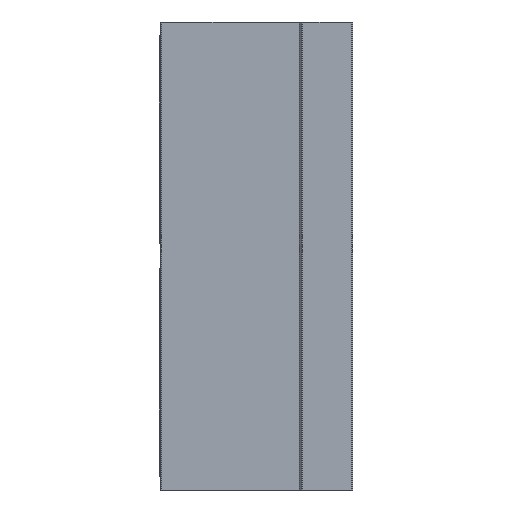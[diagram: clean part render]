
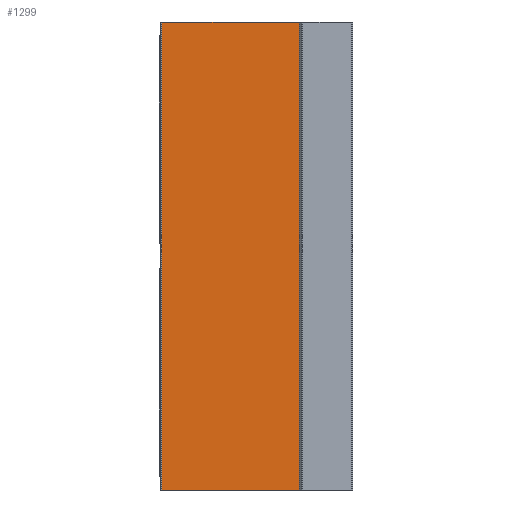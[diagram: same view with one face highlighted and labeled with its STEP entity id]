
A CAD part, left-side view. The second image highlights one B-rep face of the part: STEP entity #1299.
In plain terms, the highlighted planar face has unit normal (-1, 0, 0).
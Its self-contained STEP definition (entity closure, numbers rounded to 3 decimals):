
#1299 = ADVANCED_FACE ( 'NONE', ( #11408 ), #29117, .F. ) ;
#1637 = AXIS2_PLACEMENT_3D ( 'NONE', #6295, #27148, #8852 ) ;
#1826 = EDGE_CURVE ( 'NONE', #17890, #2893, #9540, .T. ) ;
#2166 = CARTESIAN_POINT ( 'NONE',  ( -44., 29.5, 175. ) ) ;
#2760 = CARTESIAN_POINT ( 'NONE',  ( -44., 29.5, 0. ) ) ;
#2893 = VERTEX_POINT ( 'NONE', #9016 ) ;
#3113 = CARTESIAN_POINT ( 'NONE',  ( -44., 29.5, 175. ) ) ;
#4321 = CARTESIAN_POINT ( 'NONE',  ( -44., 30., 175. ) ) ;
#4466 = DIRECTION ( 'NONE',  ( 0., -1., 0. ) ) ;
#6295 = CARTESIAN_POINT ( 'NONE',  ( -44., 30., 175. ) ) ;
#6460 = VERTEX_POINT ( 'NONE', #2760 ) ;
#6971 = DIRECTION ( 'NONE',  ( 0., 0., -1. ) ) ;
#7686 = EDGE_CURVE ( 'NONE', #16965, #17890, #27437, .T. ) ;
#8256 = CARTESIAN_POINT ( 'NONE',  ( -44., 30., 0. ) ) ;
#8852 = DIRECTION ( 'NONE',  ( 0., 0., -1. ) ) ;
#9016 = CARTESIAN_POINT ( 'NONE',  ( -44., -22., 0. ) ) ;
#9540 = LINE ( 'NONE', #25146, #12210 ) ;
#11259 = VECTOR ( 'NONE', #17426, 1000. ) ;
#11408 = FACE_OUTER_BOUND ( 'NONE', #29488, .T. ) ;
#12210 = VECTOR ( 'NONE', #6971, 1000. ) ;
#14909 = EDGE_CURVE ( 'NONE', #6460, #2893, #28807, .T. ) ;
#15440 = ORIENTED_EDGE ( 'NONE', *, *, #1826, .F. ) ;
#15625 = CARTESIAN_POINT ( 'NONE',  ( -44., -22., 175. ) ) ;
#16185 = VECTOR ( 'NONE', #4466, 1000. ) ;
#16351 = LINE ( 'NONE', #3113, #27925 ) ;
#16965 = VERTEX_POINT ( 'NONE', #2166 ) ;
#17426 = DIRECTION ( 'NONE',  ( 0., -1., 0. ) ) ;
#17890 = VERTEX_POINT ( 'NONE', #15625 ) ;
#23160 = ORIENTED_EDGE ( 'NONE', *, *, #24565, .T. ) ;
#23865 = ORIENTED_EDGE ( 'NONE', *, *, #14909, .T. ) ;
#24565 = EDGE_CURVE ( 'NONE', #16965, #6460, #16351, .T. ) ;
#25146 = CARTESIAN_POINT ( 'NONE',  ( -44., -22., 175. ) ) ;
#27148 = DIRECTION ( 'NONE',  ( 1., 0., 0. ) ) ;
#27437 = LINE ( 'NONE', #4321, #16185 ) ;
#27556 = ORIENTED_EDGE ( 'NONE', *, *, #7686, .F. ) ;
#27925 = VECTOR ( 'NONE', #28184, 1000. ) ;
#28184 = DIRECTION ( 'NONE',  ( 0., 0., -1. ) ) ;
#28807 = LINE ( 'NONE', #8256, #11259 ) ;
#29117 = PLANE ( 'NONE',  #1637 ) ;
#29488 = EDGE_LOOP ( 'NONE', ( #27556, #23160, #23865, #15440 ) ) ;
